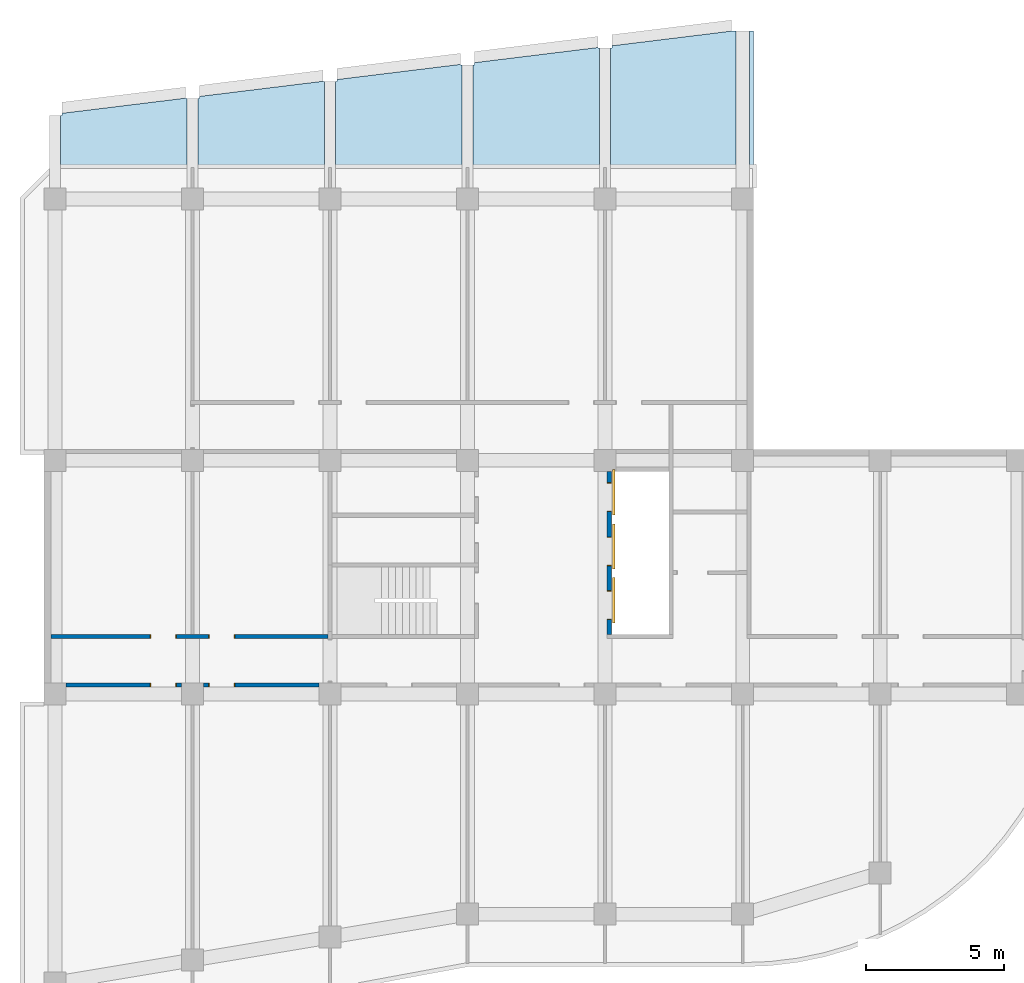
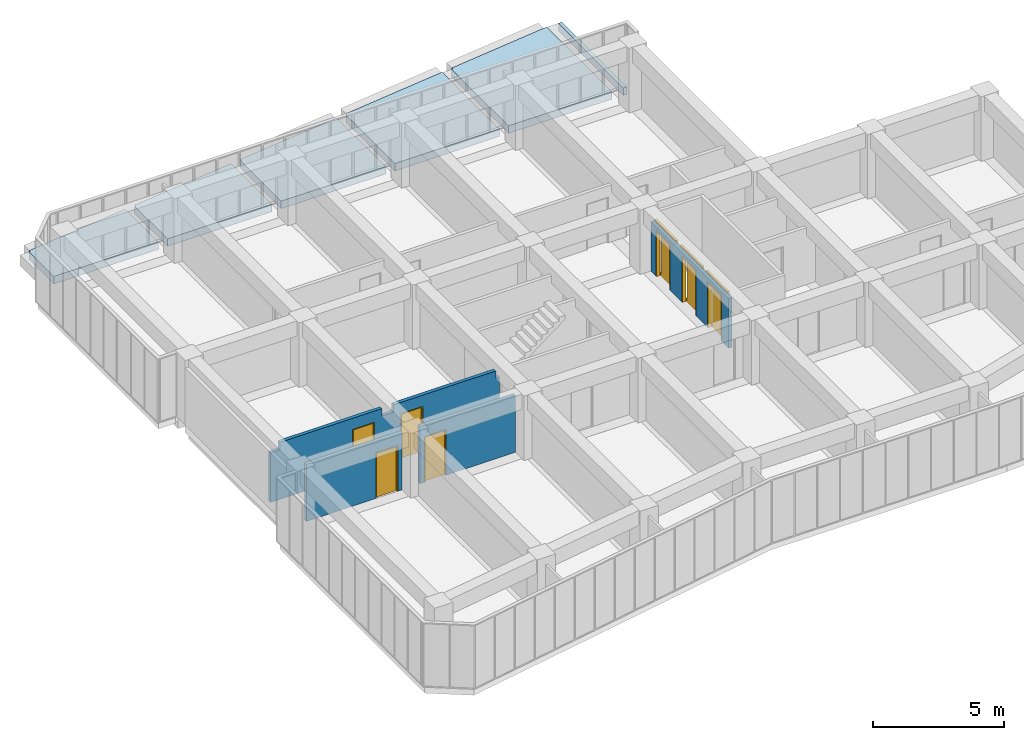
# One storey, part 4 of 6: 7 doors, 3 walls, 1 slab, 7 openings.
"""IFC2X3 building model written with IfcOpenShell, lengths in millimetres."""

from ifc_helpers import new_model, entity, si_unit, converted_unit, derived_unit, money_unit, direction, frame, origin_with_axes, place, context, subcontext, project, spatial, open_shell, faceted_brep, surface_model, source, transform, mapped, material, type_object, element, fill, save


model = new_model("IFC2X3")

# Units and contexts
model_context = context("Model", 3, precision=0.01, world=origin_with_axes(), true_north=direction((0.0, 1.0)))
body_context = subcontext(model_context, "Body", "Model", "MODEL_VIEW")
ifc_project = project(units=[si_unit("LENGTHUNIT", "METRE", prefix="MILLI"), si_unit("AREAUNIT", "SQUARE_METRE"), si_unit("VOLUMEUNIT", "CUBIC_METRE"), converted_unit("PLANEANGLEUNIT", "DEGREE", entity("IfcPlaneAngleMeasure", 0.0174532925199), si_unit("PLANEANGLEUNIT", "RADIAN"), dimensions=[0, 0, 0, 0, 0, 0, 0]), si_unit("SOLIDANGLEUNIT", "STERADIAN"), money_unit("JPY"), converted_unit("TIMEUNIT", "Year", entity("IfcTimeMeasure", 31556926.0), si_unit("TIMEUNIT", "SECOND"), dimensions=[0, 0, 1, 0, 0, 0, 0]), si_unit("MASSUNIT", "GRAM", prefix="KILO"), si_unit("THERMODYNAMICTEMPERATUREUNIT", "DEGREE_CELSIUS"), si_unit("LUMINOUSINTENSITYUNIT", "LUMEN"), si_unit("ENERGYUNIT", "JOULE", prefix="MEGA"), derived_unit("THERMALCONDUCTANCEUNIT", [(si_unit("POWERUNIT", "WATT"), 1), (si_unit("LENGTHUNIT", "METRE"), -1), (si_unit("THERMODYNAMICTEMPERATUREUNIT", "KELVIN"), -1)]), derived_unit("SPECIFICHEATCAPACITYUNIT", [(si_unit("ENERGYUNIT", "JOULE"), 1), (si_unit("MASSUNIT", "GRAM", prefix="KILO"), -1), (si_unit("THERMODYNAMICTEMPERATUREUNIT", "KELVIN"), -1)]), derived_unit("MASSDENSITYUNIT", [(si_unit("MASSUNIT", "GRAM", prefix="KILO"), 1), (si_unit("VOLUMEUNIT", "CUBIC_METRE"), -1)])], contexts=[model_context])

# Site, building, storey
site_placement = place(None, origin_with_axes())
site = spatial("IfcSite", under=ifc_project, at=site_placement, Name="サイト", CompositionType="ELEMENT")
building_placement = place(site_placement, origin_with_axes())
building = spatial("IfcBuilding", under=site, at=building_placement, Name="建築", CompositionType="ELEMENT")
storey_placement = place(building_placement, frame((0.0, 0.0, 6000.0), z_axis=(0.0, 0.0, 1.0), x_axis=(1.0, 0.0, 0.0)))
storey = spatial("IfcBuildingStorey", under=building, at=storey_placement, Name="3FL", CompositionType="ELEMENT", Elevation=6000.0)

# Slab
ifc_material = material(Name="コンクリート")
slab_type = type_object("IfcSlabType", Name="コンクリート 350", PredefinedType="FLOOR")
slab_placement = place(storey_placement, frame((4984.76633207, 22021.0207501, 0.0), z_axis=(0.0, 0.0, 1.0), x_axis=(1.0, 0.0, 0.0)))
element("IfcSlab", 1, at=slab_placement, inside=storey, type_object=slab_type, material=ifc_material, Name="S2", PredefinedType="FLOOR", context=body_context, shape_type="Brep", body=[
    faceted_brep([(-184.766332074, -2871.02075592, -350.0), (-184.766332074, -374.068268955, -350.0), (-184.766332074, -374.068268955, 0.0), (-184.766332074, -2871.02075592, 0.0), (-234.766332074, -356.266374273, -350.0), (-234.766332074, -374.068268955, -350.0), (-4784.76633207, -2871.02075723, -350.0), (-4784.76633207, -987.99107347, -350.0), (-4734.76633207, -987.99107347, -350.0), (-4734.76633207, -908.796898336, -350.0), (-234.766332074, -374.068268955, 0.0), (-234.766332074, -356.266374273, 0.0), (-4734.76633207, -908.796898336, 0.0), (-4734.76633207, -987.99107347, 0.0), (-4784.76633207, -987.99107347, 0.0), (-4784.76633207, -2871.02075723, 0.0)], [[[0, 1, 2, 3]], [[4, 5, 1, 0, 6, 7, 8, 9]], [[5, 10, 2, 1]], [[2, 10, 11, 12, 13, 14, 15, 3]], [[15, 6, 0, 3]], [[5, 4, 11, 10]], [[15, 14, 7, 6]], [[7, 14, 13, 8]], [[8, 13, 12, 9]], [[12, 11, 4, 9]]]),
    faceted_brep([(20415.2336333, -2871.02075009, -350.0), (20415.2336679, 2081.6229491, -350.0), (20415.2336679, 2081.6229491, 0.0), (20415.2336333, -2871.02075009, 0.0), (20265.2336724, -2871.02075013, -350.0), (20265.2336724, 2081.6229491, -350.0), (20265.2336723, 2081.6229491, 0.0), (20265.2336689, -2871.02075013, 0.0)], [[[0, 1, 2, 3]], [[4, 5, 1, 0]], [[5, 6, 2, 1]], [[3, 2, 6, 7]], [[0, 3, 7, 4]], [[7, 6, 5, 4]]]),
    faceted_brep([(4815.23366793, -2871.02075451, -350.0), (4815.23366793, 239.854535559, -350.0), (4815.23366793, 239.854535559, 0.0), (4815.23366793, -2871.02075451, 0.0), (4765.23366793, 257.656430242, -350.0), (4765.23366793, 239.854535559, -350.0), (215.233667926, -2871.02075581, -350.0), (215.233667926, -374.068268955, -350.0), (265.233667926, -374.068268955, -350.0), (265.233667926, -294.874093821, -350.0), (4765.23366793, 239.854535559, 0.0), (4765.23366793, 257.656430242, 0.0), (265.233667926, -294.874093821, 0.0), (265.233667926, -374.068268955, 0.0), (215.233667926, -374.068268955, 0.0), (215.233667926, -2871.02075581, 0.0)], [[[0, 1, 2, 3]], [[4, 5, 1, 0, 6, 7, 8, 9]], [[5, 10, 2, 1]], [[2, 10, 11, 12, 13, 14, 15, 3]], [[15, 6, 0, 3]], [[5, 4, 11, 10]], [[15, 14, 7, 6]], [[7, 14, 13, 8]], [[8, 13, 12, 9]], [[12, 11, 4, 9]]]),
    faceted_brep([(9815.23366793, -2871.02075309, -350.0), (9815.23366793, 853.777340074, -350.0), (9815.23366793, 853.777340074, 0.0), (9815.23366793, -2871.02075309, 0.0), (9765.23366793, 871.579234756, -350.0), (9765.23366793, 853.777340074, -350.0), (5215.23366793, -2871.02075439, -350.0), (5215.23366793, 239.854535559, -350.0), (5265.23366793, 239.854535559, -350.0), (5265.23366793, 319.048710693, -350.0), (9765.23366793, 853.777340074, 0.0), (9765.23366793, 871.579234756, 0.0), (5265.23366793, 319.048710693, 0.0), (5265.23366793, 239.854535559, 0.0), (5215.23366793, 239.854535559, 0.0), (5215.23366793, -2871.02075439, 0.0)], [[[0, 1, 2, 3]], [[4, 5, 1, 0, 6, 7, 8, 9]], [[5, 10, 2, 1]], [[2, 10, 11, 12, 13, 14, 15, 3]], [[15, 6, 0, 3]], [[5, 4, 11, 10]], [[15, 14, 7, 6]], [[7, 14, 13, 8]], [[8, 13, 12, 9]], [[12, 11, 4, 9]]]),
    faceted_brep([(14815.2336679, -2871.02075167, -350.0), (14815.2336679, 1467.70014459, -350.0), (14815.2336679, 1467.70014459, 0.0), (14815.2336679, -2871.02075167, 0.0), (14765.2336679, 1485.50203927, -350.0), (14765.2336679, 1467.70014459, -350.0), (10215.2336679, -2871.02075298, -350.0), (10215.2336679, 853.777340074, -350.0), (10265.2336679, 853.777340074, -350.0), (10265.2336679, 932.971515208, -350.0), (14765.2336679, 1467.70014459, 0.0), (14765.2336679, 1485.50203927, 0.0), (10265.2336679, 932.971515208, 0.0), (10265.2336679, 853.777340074, 0.0), (10215.2336679, 853.777340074, 0.0), (10215.2336679, -2871.02075298, 0.0)], [[[0, 1, 2, 3]], [[4, 5, 1, 0, 6, 7, 8, 9]], [[5, 10, 2, 1]], [[2, 10, 11, 12, 13, 14, 15, 3]], [[15, 6, 0, 3]], [[5, 4, 11, 10]], [[15, 14, 7, 6]], [[7, 14, 13, 8]], [[8, 13, 12, 9]], [[12, 11, 4, 9]]]),
    faceted_brep([(19765.2336679, -2871.02075027, -350.0), (19765.2336679, 2081.6229491, -350.0), (19765.2336679, 2081.6229491, 0.0), (19765.2336679, -2871.02075027, 0.0), (15265.2336679, 1546.89431972, -350.0), (19620.2488706, 2081.6229491, -350.0), (15215.2336679, -2871.02075156, -350.0), (15215.2336679, 1467.70014459, -350.0), (15265.2336679, 1467.70014459, -350.0), (19620.2488706, 2081.6229491, 0.0), (15265.2336679, 1546.89431972, 0.0), (15265.2336679, 1467.70014459, 0.0), (15215.2336679, 1467.70014459, 0.0), (15215.2336679, -2871.02075156, 0.0)], [[[0, 1, 2, 3]], [[4, 5, 1, 0, 6, 7, 8]], [[5, 9, 2, 1]], [[3, 2, 9, 10, 11, 12, 13]], [[0, 3, 13, 6]], [[10, 9, 5, 4]], [[13, 12, 7, 6]], [[7, 12, 11, 8]], [[8, 11, 10, 4]]]),
])

# Wall, openings, doors
wall_type = type_object("IfcWallType", Name="コンクリート 150", PredefinedType="NOTDEFINED")
wall_1_placement = place(storey_placement, frame((-275.00006329, 2100.0, 0.0), z_axis=(0.0, 0.0, 1.0), x_axis=(1.0, 0.0, 0.0)))
wall_1 = element("IfcWall", 2, at=wall_1_placement, inside=storey, type_object=wall_type, material=ifc_material, Name="W3", context=body_context, shape_type="Brep", body=[
    faceted_brep([(5860.00006329, 75.0, 2130.0), (5860.00006329, 75.0, 0.0), (4690.00006329, 75.0, 0.0), (4690.00006329, 75.0, 2130.0), (3730.00006329, 75.0, 2130.0), (3730.00006329, 75.0, 0.0), (125.0, 75.0, 0.0), (125.0, 75.0, 2300.0), (525.00006329, 75.0, 2300.0), (525.00006329, 75.0, 2650.0), (5025.00006329, 75.0, 2650.0), (5025.00006329, 75.0, 2300.0), (5525.00006329, 75.0, 2300.0), (5525.00006329, 75.0, 2650.0), (10025.0000633, 75.0, 2650.0), (10025.0000633, 75.0, 2300.0), (10200.0000633, 75.0, 2300.0), (10200.0000633, 75.0, 0.0), (6820.00006329, 75.0, 0.0), (6820.00006329, 75.0, 2130.0), (5860.00006329, -75.0, 2130.0), (5860.00006329, -75.0, 0.0), (4690.00006329, -75.0, 0.0), (4690.00006329, -75.0, 2130.0), (3730.00006329, -75.0, 2130.0), (3730.00006329, -75.0, 0.0), (125.0, -75.0, 0.0), (125.0, -75.0, 2300.0), (525.00006329, -75.0, 2300.0), (525.00006329, -75.0, 2650.0), (5025.00006329, -75.0, 2650.0), (5025.00006329, -75.0, 2300.0), (5525.00006329, -75.0, 2300.0), (5525.00006329, -75.0, 2650.0), (10025.0000633, -75.0, 2650.0), (10025.0000633, -75.0, 2300.0), (10200.0000633, -75.0, 2300.0), (10200.0000633, -75.0, 0.0), (6820.00006329, -75.0, 0.0), (6820.00006329, -75.0, 2130.0)], [[[0, 1, 2, 3, 4, 5, 6, 7, 8, 9, 10, 11, 12, 13, 14, 15, 16, 17, 18, 19]], [[1, 0, 20, 21]], [[1, 21, 22, 2]], [[2, 22, 23, 3]], [[3, 23, 24, 4]], [[4, 24, 25, 5]], [[25, 26, 6, 5]], [[7, 6, 26, 27]], [[7, 27, 28, 8]], [[9, 8, 28, 29]], [[29, 30, 10, 9]], [[10, 30, 31, 11]], [[11, 31, 32, 12]], [[13, 12, 32, 33]], [[33, 34, 14, 13]], [[14, 34, 35, 15]], [[16, 15, 35, 36]], [[36, 37, 17, 16]], [[38, 18, 17, 37]], [[19, 18, 38, 39]], [[0, 19, 39, 20]], [[39, 38, 37, 36, 35, 34, 33, 32, 31, 30, 29, 28, 27, 26, 25, 24, 23, 22, 21, 20]]]),
])
opening_1_placement = place(wall_1_placement, frame((4210.00006329, 0.0, 0.0), z_axis=(0.0, 0.0, 1.0), x_axis=(1.0, 0.0, 0.0)))
opening_1 = element("IfcOpeningElement", 3, at=opening_1_placement, cuts=wall_1, Name="SD0", context=body_context, shape_type="Brep", body=[
    faceted_brep([(-480.0, -160.0, 0.0), (-480.0, -160.0, 2130.0), (-480.0, 160.0, 2130.0), (-480.0, 160.0, 0.0), (480.0, -160.0, 0.0), (480.0, -160.0, 2130.0), (480.0, 160.0, 2130.0), (480.0, 160.0, 0.0)], [[[0, 1, 2, 3]], [[0, 4, 5, 1]], [[1, 5, 6, 2]], [[3, 2, 6, 7]], [[4, 0, 3, 7]], [[5, 4, 7, 6]]]),
])
opening_2_placement = place(wall_1_placement, frame((6340.00006329, 0.0, 0.0), z_axis=(0.0, 0.0, 1.0), x_axis=(1.0, 0.0, 0.0)))
opening_2 = element("IfcOpeningElement", 4, at=opening_2_placement, cuts=wall_1, Name="SD1", context=body_context, shape_type="Brep", body=[
    faceted_brep([(480.0, 160.0, 0.0), (480.0, 160.0, 2130.0), (480.0, -160.0, 2130.0), (480.0, -160.0, 0.0), (-480.0, 160.0, 0.0), (-480.0, 160.0, 2130.0), (-480.0, -160.0, 2130.0), (-480.0, -160.0, 0.0)], [[[0, 1, 2, 3]], [[0, 4, 5, 1]], [[1, 5, 6, 2]], [[3, 2, 6, 7]], [[4, 0, 3, 7]], [[5, 4, 7, 6]]]),
])
door_style_1 = type_object("IfcDoorStyle", Name="片開き戸", ConstructionType="NOTDEFINED", OperationType="NOTDEFINED", ParameterTakesPrecedence=False, Sizeable=False)
shared_shape_1 = source(origin_with_axes(), body_context, "Body", "SurfaceModel", [
    surface_model("IfcShellBasedSurfaceModel", [(-450.0, -85.0, 0.0), (-450.0, -85.0, 2100.0), (450.0, -85.0, 2100.0), (450.0, -85.0, 0.0)], [open_shell([[[0, 1, 2, 3]]])]),
    surface_model("IfcShellBasedSurfaceModel", [(-480.0, -10.0, 0.0), (-480.0, -10.0, 2130.0), (480.0, -10.0, 2130.0), (480.0, -10.0, 0.0), (450.0, -10.0, 0.0), (450.0, -10.0, 2100.0), (-450.0, -10.0, 2100.0), (-450.0, -10.0, 0.0)], [open_shell([[[0, 1, 2, 3, 4, 5, 6, 7]]])]),
    surface_model("IfcShellBasedSurfaceModel", [(-480.0, -160.0, 0.0), (-480.0, -160.0, 2130.0), (480.0, -160.0, 2130.0), (480.0, -160.0, 0.0), (450.0, -160.0, 0.0), (450.0, -160.0, 2100.0), (-450.0, -160.0, 2100.0), (-450.0, -160.0, 0.0)], [open_shell([[[0, 1, 2, 3, 4, 5, 6, 7]]])]),
    surface_model("IfcShellBasedSurfaceModel", [(-450.0, -10.0, 0.0), (-450.0, -10.0, 2100.0), (-450.0, -160.0, 2100.0), (-450.0, -160.0, 0.0), (450.0, -10.0, 2100.0), (450.0, -160.0, 2100.0), (-480.0, -10.0, 0.0), (-480.0, -160.0, 0.0), (450.0, -10.0, 0.0), (450.0, -160.0, 0.0), (-480.0, -10.0, 2130.0), (-480.0, -160.0, 2130.0), (480.0, -10.0, 0.0), (480.0, -160.0, 0.0), (480.0, -10.0, 2130.0), (480.0, -160.0, 2130.0)], [open_shell([[[0, 1, 2, 3]], [[1, 4, 5, 2]], [[6, 0, 3, 7]], [[4, 8, 9, 5]], [[10, 6, 7, 11]], [[8, 12, 13, 9]], [[14, 10, 11, 15]], [[12, 14, 15, 13]]])]),
])
door_1_placement = place(opening_1_placement, frame((-450.0, 0.0, 0.0), z_axis=(0.0, 0.0, 1.0), x_axis=(1.0, 0.0, 0.0)))
door_1 = element("IfcDoor", 5, at=door_1_placement, inside=storey, type_object=door_style_1, Name="SD0", OverallHeight=2165.0, OverallWidth=1030.0, context=body_context, shape_type="MappedRepresentation", body=[
    mapped(shared_shape_1, transform((450.0, 85.0, 0.0))),
])
fill(opening_1, door_1)
shared_shape_2 = source(origin_with_axes(), body_context, "Body", "SurfaceModel", [
    surface_model("IfcShellBasedSurfaceModel", [(450.0, -85.0, 0.0), (-450.0, -85.0, 0.0), (-450.0, -85.0, 2100.0), (450.0, -85.0, 2100.0)], [open_shell([[[0, 1, 2, 3]]])]),
    surface_model("IfcShellBasedSurfaceModel", [(480.0, -10.0, 0.0), (450.0, -10.0, 0.0), (450.0, -10.0, 2100.0), (-450.0, -10.0, 2100.0), (-450.0, -10.0, 0.0), (-480.0, -10.0, 0.0), (-480.0, -10.0, 2130.0), (480.0, -10.0, 2130.0)], [open_shell([[[0, 1, 2, 3, 4, 5, 6, 7]]])]),
    surface_model("IfcShellBasedSurfaceModel", [(480.0, -160.0, 0.0), (450.0, -160.0, 0.0), (450.0, -160.0, 2100.0), (-450.0, -160.0, 2100.0), (-450.0, -160.0, 0.0), (-480.0, -160.0, 0.0), (-480.0, -160.0, 2130.0), (480.0, -160.0, 2130.0)], [open_shell([[[0, 1, 2, 3, 4, 5, 6, 7]]])]),
    surface_model("IfcShellBasedSurfaceModel", [(450.0, -10.0, 0.0), (450.0, -160.0, 0.0), (450.0, -160.0, 2100.0), (450.0, -10.0, 2100.0), (480.0, -10.0, 0.0), (480.0, -160.0, 0.0), (-450.0, -160.0, 2100.0), (-450.0, -10.0, 2100.0), (480.0, -10.0, 2130.0), (480.0, -160.0, 2130.0), (-450.0, -160.0, 0.0), (-450.0, -10.0, 0.0), (-480.0, -10.0, 2130.0), (-480.0, -160.0, 2130.0), (-480.0, -160.0, 0.0), (-480.0, -10.0, 0.0)], [open_shell([[[0, 1, 2, 3]], [[4, 5, 1, 0]], [[3, 2, 6, 7]], [[8, 9, 5, 4]], [[7, 6, 10, 11]], [[12, 13, 9, 8]], [[11, 10, 14, 15]], [[15, 14, 13, 12]]])]),
])
door_2_placement = place(opening_2_placement, frame((-450.0, 0.0, 0.0), z_axis=(0.0, 0.0, 1.0), x_axis=(1.0, 0.0, 0.0)))
door_2 = element("IfcDoor", 6, at=door_2_placement, inside=storey, type_object=door_style_1, Name="SD1", OverallHeight=2165.0, OverallWidth=1030.0, context=body_context, shape_type="MappedRepresentation", body=[
    mapped(shared_shape_2, transform((450.0, 85.0, 0.0))),
])
fill(opening_2, door_2)

wall_2_placement = place(storey_placement, frame((10000.0, 324.999998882, 0.0), z_axis=(0.0, 0.0, 1.0), x_axis=(-1.0, 0.0, 0.0)))
wall_2 = element("IfcWall", 7, at=wall_2_placement, inside=storey, type_object=wall_type, material=ifc_material, Name="W4", context=body_context, shape_type="Brep", body=[
    faceted_brep([(6545.0, -75.0000011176, 2130.0), (6545.0, -75.0000011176, 0.0), (9600.0, -75.0000011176, 0.0), (9600.0, -75.0000011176, 2650.0), (5400.0, -75.0000011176, 2650.0), (5400.0, -75.0000011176, 0.0), (5585.0, -75.0000011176, 0.0), (5585.0, -75.0000011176, 2130.0), (6545.0, 74.9999988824, 2130.0), (6545.0, 75.0, 0.0), (9600.0, 75.0, 0.0), (9600.0, 74.9999988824, 2650.0), (5400.0, 74.9999988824, 2650.0), (5400.0, 75.0, 0.0), (5585.0, 75.0, 0.0), (5585.0, 74.9999988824, 2130.0)], [[[0, 1, 2, 3, 4, 5, 6, 7]], [[1, 0, 8, 9]], [[1, 9, 10, 2]], [[11, 3, 2, 10]], [[3, 11, 12, 4]], [[5, 4, 12, 13]], [[14, 6, 5, 13]], [[7, 6, 14, 15]], [[0, 7, 15, 8]], [[15, 14, 13, 12, 11, 10, 9, 8]]]),
    faceted_brep([(4415.0, -75.0000011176, 2130.0), (4415.0, -75.0000011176, 0.0), (4600.0, -75.0000011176, 0.0), (4600.0, -75.0000011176, 2650.0), (400.0, -75.0000011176, 2650.0), (400.0, -75.0000011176, 0.0), (3455.0, -75.0000011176, 0.0), (3455.0, -75.0000011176, 2130.0), (4415.0, 74.9999988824, 2130.0), (4415.0, 75.0, 0.0), (4600.0, 75.0, 0.0), (4600.0, 74.9999988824, 2650.0), (400.0, 74.9999988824, 2650.0), (400.0, 75.0, 0.0), (3455.0, 75.0, 0.0), (3455.0, 74.9999988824, 2130.0)], [[[0, 1, 2, 3, 4, 5, 6, 7]], [[1, 0, 8, 9]], [[1, 9, 10, 2]], [[11, 3, 2, 10]], [[3, 11, 12, 4]], [[5, 4, 12, 13]], [[14, 6, 5, 13]], [[7, 6, 14, 15]], [[0, 7, 15, 8]], [[15, 14, 13, 12, 11, 10, 9, 8]]]),
])
opening_3_placement = place(wall_2_placement, frame((6065.0, 0.0, 0.0), z_axis=(0.0, 0.0, 1.0), x_axis=(1.0, 0.0, 0.0)))
opening_3 = element("IfcOpeningElement", 8, at=opening_3_placement, cuts=wall_2, Name="SD9", context=body_context, shape_type="Brep", body=[
    faceted_brep([(480.0, 160.0, 0.0), (480.0, 160.0, 2130.0), (480.0, -160.0, 2130.0), (480.0, -160.0, 0.0), (-480.0, 160.0, 0.0), (-480.0, 160.0, 2130.0), (-480.0, -160.0, 2130.0), (-480.0, -160.0, 0.0)], [[[0, 1, 2, 3]], [[0, 4, 5, 1]], [[1, 5, 6, 2]], [[3, 2, 6, 7]], [[4, 0, 3, 7]], [[5, 4, 7, 6]]]),
])
opening_4_placement = place(wall_2_placement, frame((3935.0, 0.0, 0.0), z_axis=(0.0, 0.0, 1.0), x_axis=(1.0, 0.0, 0.0)))
opening_4 = element("IfcOpeningElement", 9, at=opening_4_placement, cuts=wall_2, Name="SD9", context=body_context, shape_type="Brep", body=[
    faceted_brep([(-480.0, -160.0, 0.0), (-480.0, -160.0, 2130.0), (-480.0, 160.0, 2130.0), (-480.0, 160.0, 0.0), (480.0, -160.0, 0.0), (480.0, -160.0, 2130.0), (480.0, 160.0, 2130.0), (480.0, 160.0, 0.0)], [[[0, 1, 2, 3]], [[0, 4, 5, 1]], [[1, 5, 6, 2]], [[3, 2, 6, 7]], [[4, 0, 3, 7]], [[5, 4, 7, 6]]]),
])
door_3_placement = place(opening_4_placement, frame((-450.0, 0.0, 0.0), z_axis=(0.0, 0.0, 1.0), x_axis=(1.0, 0.0, 0.0)))
door_3 = element("IfcDoor", 10, at=door_3_placement, inside=storey, type_object=door_style_1, Name="SD9", OverallHeight=2165.0, OverallWidth=1030.0, context=body_context, shape_type="MappedRepresentation", body=[
    mapped(shared_shape_1, transform((450.0, 85.0, 0.0))),
])
fill(opening_4, door_3)
door_4_placement = place(opening_3_placement, frame((-450.0, 0.0, 0.0), z_axis=(0.0, 0.0, 1.0), x_axis=(1.0, 0.0, 0.0)))
door_4 = element("IfcDoor", 11, at=door_4_placement, inside=storey, type_object=door_style_1, Name="SD9", OverallHeight=2165.0, OverallWidth=1030.0, context=body_context, shape_type="MappedRepresentation", body=[
    mapped(shared_shape_2, transform((450.0, 85.0, 0.0))),
])
fill(opening_3, door_4)

wall_3_placement = place(storey_placement, frame((20150.0, 2100.0, 0.0), z_axis=(0.0, 0.0, 1.0), x_axis=(0.0, 1.0, 0.0)))
wall_3 = element("IfcWall", 12, at=wall_3_placement, inside=storey, type_object=wall_type, material=ifc_material, Name="W6", context=body_context, shape_type="Brep", body=[
    faceted_brep([(605.0, -75.0, 0.0), (605.0, -75.0, 2130.0), (1665.0, -75.0, 2130.0), (1665.0, -75.0, 0.0), (2554.97613952, -75.0, 0.0), (2554.97613952, -75.0, 2130.0), (3614.97613952, -75.0, 2130.0), (3614.97613952, -75.0, 0.0), (4530.0, -75.0, 0.0), (4530.0, -75.0, 2130.0), (5590.0, -75.0, 2130.0), (5590.0, -75.0, 0.0), (6000.0, -75.0, 0.0), (6000.0, -75.0, 2300.0), (75.0, -75.0, 2300.0), (75.0, -75.0, 0.0), (605.0, 75.0, 0.0), (605.0, 75.0, 2130.0), (1665.0, 75.0, 2130.0), (1665.0, 75.0, 0.0), (2554.97613952, 75.0, 0.0), (2554.97613952, 75.0, 2130.0), (3614.97613952, 75.0, 2130.0), (3614.97613952, 75.0, 0.0), (4530.0, 75.0, 0.0), (4530.0, 75.0, 2130.0), (5590.0, 75.0, 2130.0), (5590.0, 75.0, 0.0), (6000.0, 75.0, 0.0), (6000.0, 75.0, 2300.0), (75.0, 75.0, 2300.0), (75.0, 75.0, 0.0)], [[[0, 1, 2, 3, 4, 5, 6, 7, 8, 9, 10, 11, 12, 13, 14, 15]], [[1, 0, 16, 17]], [[2, 1, 17, 18]], [[3, 2, 18, 19]], [[3, 19, 20, 4]], [[4, 20, 21, 5]], [[5, 21, 22, 6]], [[6, 22, 23, 7]], [[23, 24, 8, 7]], [[24, 25, 9, 8]], [[25, 26, 10, 9]], [[26, 27, 11, 10]], [[28, 12, 11, 27]], [[12, 28, 29, 13]], [[30, 14, 13, 29]], [[30, 31, 15, 14]], [[16, 0, 15, 31]], [[17, 16, 31, 30, 29, 28, 27, 26, 25, 24, 23, 22, 21, 20, 19, 18]]]),
])
opening_5_placement = place(wall_3_placement, frame((5060.0, 0.0, 0.0), z_axis=(0.0, 0.0, 1.0), x_axis=(1.0, 0.0, 0.0)))
opening_5 = element("IfcOpeningElement", 13, at=opening_5_placement, cuts=wall_3, Name="SD5", context=body_context, shape_type="Brep", body=[
    faceted_brep([(-530.0, -150.0, 0.0), (-530.0, -150.0, 2130.0), (-530.0, 150.0, 2130.0), (-530.0, 150.0, 0.0), (530.0, -150.0, 0.0), (530.0, -150.0, 2130.0), (530.0, 150.0, 2130.0), (530.0, 150.0, 0.0)], [[[0, 1, 2, 3]], [[0, 4, 5, 1]], [[1, 5, 6, 2]], [[3, 2, 6, 7]], [[4, 0, 3, 7]], [[5, 4, 7, 6]]]),
])
opening_6_placement = place(wall_3_placement, frame((3084.97613952, 0.0, 0.0), z_axis=(0.0, 0.0, 1.0), x_axis=(1.0, 0.0, 0.0)))
opening_6 = element("IfcOpeningElement", 14, at=opening_6_placement, cuts=wall_3, Name="SD5", context=body_context, shape_type="Brep", body=[
    faceted_brep([(-530.0, -150.0, 0.0), (-530.0, -150.0, 2130.0), (-530.0, 150.0, 2130.0), (-530.0, 150.0, 0.0), (530.0, -150.0, 0.0), (530.0, -150.0, 2130.0), (530.0, 150.0, 2130.0), (530.0, 150.0, 0.0)], [[[0, 1, 2, 3]], [[0, 4, 5, 1]], [[1, 5, 6, 2]], [[3, 2, 6, 7]], [[4, 0, 3, 7]], [[5, 4, 7, 6]]]),
])
opening_7_placement = place(wall_3_placement, frame((1135.0, 0.0, 0.0), z_axis=(0.0, 0.0, 1.0), x_axis=(1.0, 0.0, 0.0)))
opening_7 = element("IfcOpeningElement", 15, at=opening_7_placement, cuts=wall_3, Name="SD5", context=body_context, shape_type="Brep", body=[
    faceted_brep([(-530.0, -150.0, 0.0), (-530.0, -150.0, 2130.0), (-530.0, 150.0, 2130.0), (-530.0, 150.0, 0.0), (530.0, -150.0, 0.0), (530.0, -150.0, 2130.0), (530.0, 150.0, 2130.0), (530.0, 150.0, 0.0)], [[[0, 1, 2, 3]], [[0, 4, 5, 1]], [[1, 5, 6, 2]], [[3, 2, 6, 7]], [[4, 0, 3, 7]], [[5, 4, 7, 6]]]),
])
door_style_2 = type_object("IfcDoorStyle", Name="EVドア_小枠タイプ", ConstructionType="NOTDEFINED", OperationType="NOTDEFINED", ParameterTakesPrecedence=False, Sizeable=False)
shared_shape_3 = source(origin_with_axes(), body_context, "Body", "SurfaceModel", [
    surface_model("IfcShellBasedSurfaceModel", [(515.0, -200.5, 0.0), (-15.0, -200.5, 0.0), (-15.0, -200.5, 2100.0), (515.0, -200.5, 2100.0), (350.0, -200.5, 1100.0), (350.0, -200.5, 1800.0), (150.0, -200.5, 1800.0), (150.0, -200.5, 1100.0)], [open_shell([[[0, 1, 2, 3], [4, 5, 6, 7]]])]),
    surface_model("IfcShellBasedSurfaceModel", [(350.0, -200.5, 1100.0), (150.0, -200.5, 1100.0), (150.0, -200.5, 1800.0), (350.0, -200.5, 1800.0)], [open_shell([[[0, 1, 2, 3]]])]),
    surface_model("IfcShellBasedSurfaceModel", [(15.0, -201.5, 0.0), (-515.0, -201.5, 0.0), (-515.0, -201.5, 2100.0), (15.0, -201.5, 2100.0), (-150.0, -201.5, 1100.0), (-150.0, -201.5, 1800.0), (-350.0, -201.5, 1800.0), (-350.0, -201.5, 1100.0)], [open_shell([[[0, 1, 2, 3], [4, 5, 6, 7]]])]),
    surface_model("IfcShellBasedSurfaceModel", [(-150.0, -201.5, 1100.0), (-350.0, -201.5, 1100.0), (-350.0, -201.5, 1800.0), (-150.0, -201.5, 1800.0)], [open_shell([[[0, 1, 2, 3]]])]),
    surface_model("IfcShellBasedSurfaceModel", [(-530.0, 0.0, 0.0), (-530.0, 0.0, 2130.0), (530.0, 0.0, 2130.0), (530.0, 0.0, 0.0), (500.0, 0.0, 0.0), (500.0, 0.0, 2100.0), (-500.0, 0.0, 2100.0), (-500.0, 0.0, 0.0)], [open_shell([[[0, 1, 2, 3, 4, 5, 6, 7]]])]),
    surface_model("IfcShellBasedSurfaceModel", [(-530.0, -150.0, 0.0), (-530.0, -150.0, 2130.0), (530.0, -150.0, 2130.0), (530.0, -150.0, 0.0), (500.0, -150.0, 0.0), (500.0, -150.0, 2100.0), (-500.0, -150.0, 2100.0), (-500.0, -150.0, 0.0)], [open_shell([[[0, 1, 2, 3, 4, 5, 6, 7]]])]),
    surface_model("IfcShellBasedSurfaceModel", [(-500.0, 0.0, 0.0), (-500.0, 0.0, 2100.0), (-500.0, -150.0, 2100.0), (-500.0, -150.0, 0.0), (500.0, 0.0, 2100.0), (500.0, -150.0, 2100.0), (-530.0, 0.0, 0.0), (-530.0, -150.0, 0.0), (500.0, 0.0, 0.0), (500.0, -150.0, 0.0), (-530.0, 0.0, 2130.0), (-530.0, -150.0, 2130.0), (530.0, 0.0, 0.0), (530.0, -150.0, 0.0), (530.0, 0.0, 2130.0), (530.0, -150.0, 2130.0)], [open_shell([[[0, 1, 2, 3]], [[1, 4, 5, 2]], [[6, 0, 3, 7]], [[4, 8, 9, 5]], [[10, 6, 7, 11]], [[8, 12, 13, 9]], [[14, 10, 11, 15]], [[12, 14, 15, 13]]])]),
    faceted_brep([(-645.0, -200.0, 0.0), (-645.0, -200.0, -50.0), (-645.0, -290.0, -50.0), (-645.0, -290.0, 0.0), (1000.0, -200.0, 0.0), (1000.0, -200.0, -50.0), (1000.0, -290.0, -50.0), (1000.0, -290.0, 0.0)], [[[0, 1, 2, 3]], [[0, 4, 5, 1]], [[1, 5, 6, 2]], [[3, 2, 6, 7]], [[4, 0, 3, 7]], [[5, 4, 7, 6]]]),
    faceted_brep([(1000.0, -290.0, 2150.0), (1000.0, -290.0, 2300.0), (-645.0, -290.0, 2300.0), (-645.0, -290.0, 2150.0), (1000.0, -200.0, 2150.0), (1000.0, -200.0, 2300.0), (-645.0, -200.0, 2300.0), (-645.0, -200.0, 2150.0)], [[[0, 1, 2, 3]], [[0, 4, 5, 1]], [[1, 5, 6, 2]], [[3, 2, 6, 7]], [[4, 0, 3, 7]], [[5, 4, 7, 6]]]),
])
door_5_placement = place(opening_5_placement, frame((-500.0, 0.0, 0.0), z_axis=(0.0, 0.0, 1.0), x_axis=(1.0, 0.0, 0.0)))
door_5 = element("IfcDoor", 16, at=door_5_placement, inside=storey, type_object=door_style_2, Name="SD5", OverallHeight=2225.0, OverallWidth=1340.0, context=body_context, shape_type="MappedRepresentation", body=[
    mapped(shared_shape_3, transform((500.0, 75.0, 0.0))),
])
fill(opening_5, door_5)
door_6_placement = place(opening_6_placement, frame((-500.0, 0.0, 0.0), z_axis=(0.0, 0.0, 1.0), x_axis=(1.0, 0.0, 0.0)))
door_6 = element("IfcDoor", 17, at=door_6_placement, inside=storey, type_object=door_style_2, Name="SD5", OverallHeight=2225.0, OverallWidth=1340.0, context=body_context, shape_type="MappedRepresentation", body=[
    mapped(shared_shape_3, transform((500.0, 75.0, 0.0))),
])
fill(opening_6, door_6)
door_7_placement = place(opening_7_placement, frame((-500.0, 0.0, 0.0), z_axis=(0.0, 0.0, 1.0), x_axis=(1.0, 0.0, 0.0)))
door_7 = element("IfcDoor", 18, at=door_7_placement, inside=storey, type_object=door_style_2, Name="SD5", OverallHeight=2225.0, OverallWidth=1340.0, context=body_context, shape_type="MappedRepresentation", body=[
    mapped(shared_shape_3, transform((500.0, 75.0, 0.0))),
])
fill(opening_7, door_7)

save(model, "model.ifc")
